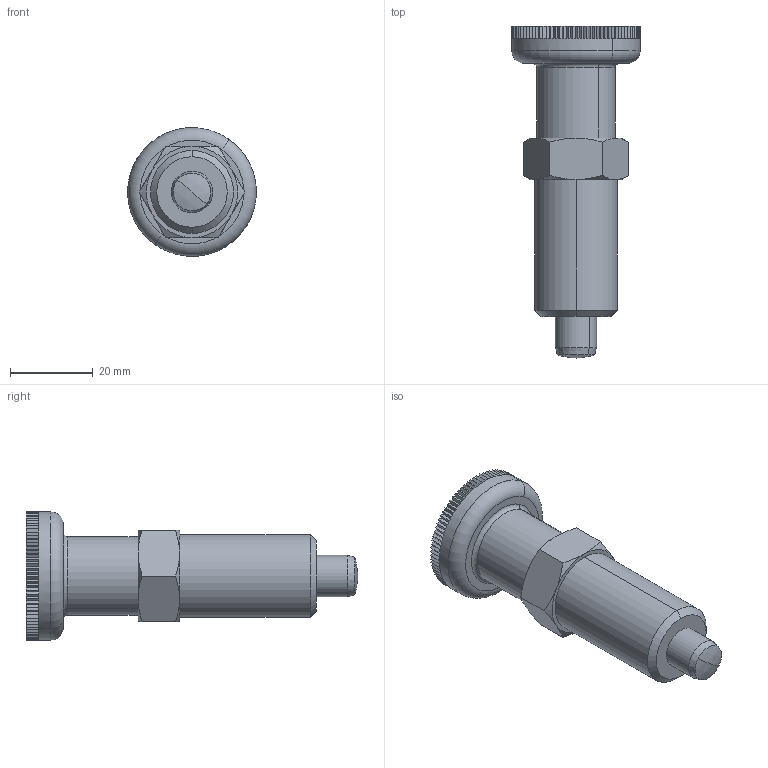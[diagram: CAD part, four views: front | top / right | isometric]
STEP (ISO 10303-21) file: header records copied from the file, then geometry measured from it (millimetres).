
FILE_DESCRIPTION (( 'STEP AP203' ), '1' );
FILE_NAME ('32700.W0010.step', '2011-03-28T11:59:01', ( 'Wixroyd' ), ( 'Wixroyd' ), 'SwSTEP 2.0', 'SolidWorks 2009', '' );
FILE_SCHEMA (( 'CONFIG_CONTROL_DESIGN' ));
Length unit declared in the file: millimetre
Products named in the file (5): 32700.W0010; Part1_3270.W010; Part2_3270.W010; Part3_3270.W010; Part4_3270.W010
Assembly tree (4 placements, depth 2):
  32700.W0010
    Part2_3270.W010
    Part1_3270.W010
    Part3_3270.W010
    Part4_3270.W010
Bounding box: 31 x 80 x 31 mm (x, y, z)
Volume: 24197 mm3; surface area: 11535.5 mm2
Topology: 4 solids, 4 shells, 435 faces, 1052 edges, 634 vertices
Faces by surface type: plane 381, cylinder 26, cone 20, sphere 4, torus 4
Entity records: 13031 total; most frequent: CARTESIAN_POINT 2288, DIRECTION 2150, ORIENTED_EDGE 2104, EDGE_CURVE 1052, VECTOR 790, LINE 790, AXIS2_PLACEMENT_3D 680, VERTEX_POINT 634
